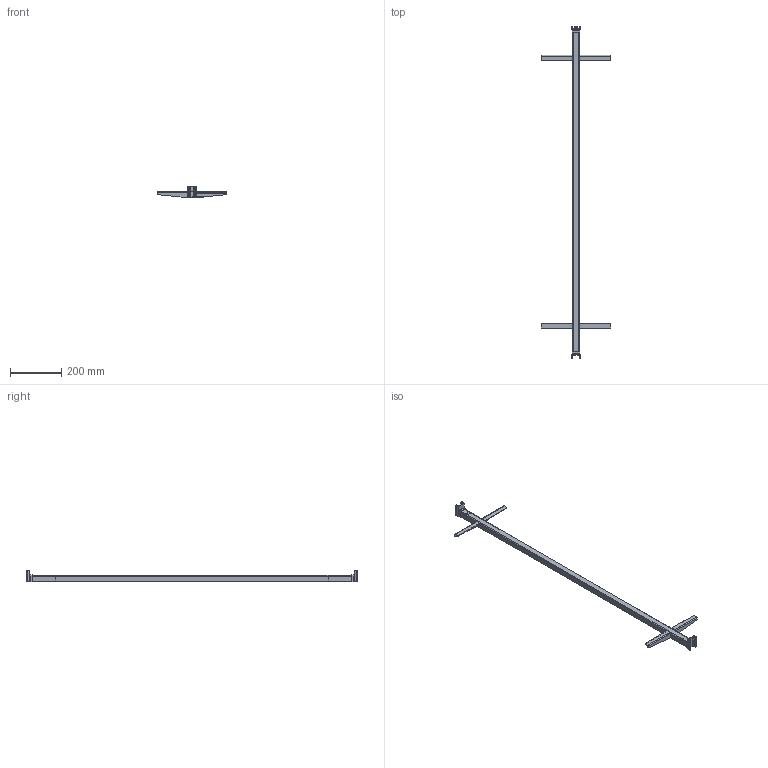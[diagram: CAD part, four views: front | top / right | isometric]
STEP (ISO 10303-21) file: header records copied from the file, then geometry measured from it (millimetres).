
FILE_DESCRIPTION (( 'STEP AP214' ), '1' );
FILE_NAME ('1000075.STEP', '2025-10-01T14:30:24', ( '' ), ( '' ), 'SwSTEP 2.0', 'SolidWorks 2025', '' );
FILE_SCHEMA (( 'AUTOMOTIVE_DESIGN' ));
Length unit declared in the file: millimetre
Products named in the file (1): 1000075
Bounding box: 270 x 1293 x 46.3 mm (x, y, z)
Volume: 888723.6 mm3; surface area: 182500.8 mm2
Topology: 12 solids, 12 shells, 585 faces, 1553 edges, 995 vertices
Faces by surface type: plane 393, cylinder 172, bspline 20
Entity records: 18435 total; most frequent: CARTESIAN_POINT 4028, ORIENTED_EDGE 3106, DIRECTION 2766, EDGE_CURVE 1553, LINE 1124, VECTOR 1124, VERTEX_POINT 995, AXIS2_PLACEMENT_3D 821
